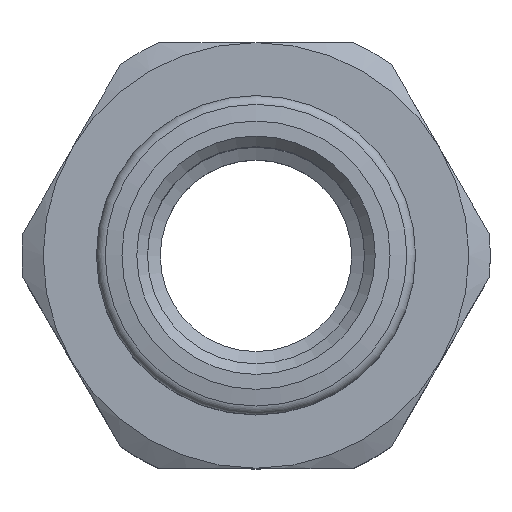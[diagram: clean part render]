
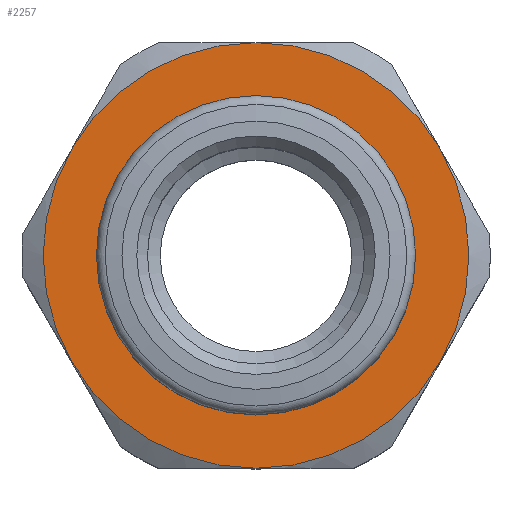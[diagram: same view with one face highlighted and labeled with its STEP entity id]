
A CAD part, top view. The second image highlights one B-rep face of the part: STEP entity #2257.
In plain terms, the highlighted planar face has unit normal (0, 0, 1) as drawn and (0, 1, 0) by its records, which use the part's own axes.
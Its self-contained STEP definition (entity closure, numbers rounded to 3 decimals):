
#1066=ORIENTED_EDGE('',*,*,#1349,.F.);
#1067=ORIENTED_EDGE('',*,*,#1352,.F.);
#1068=ORIENTED_EDGE('',*,*,#1353,.F.);
#1069=ORIENTED_EDGE('',*,*,#1354,.F.);
#1070=ORIENTED_EDGE('',*,*,#1355,.F.);
#1071=ORIENTED_EDGE('',*,*,#1356,.F.);
#1072=ORIENTED_EDGE('',*,*,#1357,.F.);
#1222=CIRCLE('',#2127,10.);
#1224=CIRCLE('',#2131,10.);
#1225=CIRCLE('',#2132,10.);
#1226=CIRCLE('',#2133,10.);
#1227=CIRCLE('',#2134,10.);
#1228=CIRCLE('',#2135,10.);
#1229=CIRCLE('',#2136,7.5);
#1278=VERTEX_POINT('',#1924);
#1282=VERTEX_POINT('',#1934);
#1284=VERTEX_POINT('',#1940);
#1285=VERTEX_POINT('',#1942);
#1286=VERTEX_POINT('',#1944);
#1287=VERTEX_POINT('',#1946);
#1288=VERTEX_POINT('',#1949);
#1349=EDGE_CURVE('',#1278,#1282,#1222,.T.);
#1352=EDGE_CURVE('',#1284,#1278,#1224,.T.);
#1353=EDGE_CURVE('',#1285,#1284,#1225,.T.);
#1354=EDGE_CURVE('',#1286,#1285,#1226,.T.);
#1355=EDGE_CURVE('',#1287,#1286,#1227,.T.);
#1356=EDGE_CURVE('',#1282,#1287,#1228,.T.);
#1357=EDGE_CURVE('',#1288,#1288,#1229,.T.);
#1445=EDGE_LOOP('',(#1066,#1067,#1068,#1069,#1070,#1071));
#1446=EDGE_LOOP('',(#1072));
#1531=FACE_BOUND('',#1445,.T.);
#1532=FACE_BOUND('',#1446,.T.);
#1664=DIRECTION('',(0.,-1.,0.));
#1665=DIRECTION('',(0.,0.,10.));
#1670=DIRECTION('',(0.,1.,0.));
#1671=DIRECTION('',(1.,0.,0.));
#1672=DIRECTION('',(0.,-1.,0.));
#1673=DIRECTION('',(0.,0.,10.));
#1674=DIRECTION('',(0.,-1.,0.));
#1675=DIRECTION('',(0.,0.,10.));
#1676=DIRECTION('',(0.,-1.,0.));
#1677=DIRECTION('',(0.,0.,10.));
#1678=DIRECTION('',(0.,-1.,0.));
#1679=DIRECTION('',(0.,0.,10.));
#1680=DIRECTION('',(0.,-1.,0.));
#1681=DIRECTION('',(0.,0.,10.));
#1682=DIRECTION('',(0.,1.,0.));
#1683=DIRECTION('',(0.,0.,-7.5));
#1924=CARTESIAN_POINT('',(27.383,42.297,5.));
#1934=CARTESIAN_POINT('',(18.723,42.297,10.));
#1935=CARTESIAN_POINT('',(18.723,42.297,0.));
#1939=CARTESIAN_POINT('',(28.723,42.297,0.));
#1940=CARTESIAN_POINT('',(27.383,42.297,-5.));
#1941=CARTESIAN_POINT('',(18.723,42.297,0.));
#1942=CARTESIAN_POINT('',(18.723,42.297,-10.));
#1943=CARTESIAN_POINT('',(18.723,42.297,0.));
#1944=CARTESIAN_POINT('',(10.063,42.297,-5.));
#1945=CARTESIAN_POINT('',(18.723,42.297,0.));
#1946=CARTESIAN_POINT('',(10.063,42.297,5.));
#1947=CARTESIAN_POINT('',(18.723,42.297,0.));
#1948=CARTESIAN_POINT('',(18.723,42.297,0.));
#1949=CARTESIAN_POINT('',(18.723,42.297,-7.5));
#1950=CARTESIAN_POINT('',(18.723,42.297,0.));
#2127=AXIS2_PLACEMENT_3D('',#1935,#1664,#1665);
#2130=AXIS2_PLACEMENT_3D('',#1939,#1670,#1671);
#2131=AXIS2_PLACEMENT_3D('',#1941,#1672,#1673);
#2132=AXIS2_PLACEMENT_3D('',#1943,#1674,#1675);
#2133=AXIS2_PLACEMENT_3D('',#1945,#1676,#1677);
#2134=AXIS2_PLACEMENT_3D('',#1947,#1678,#1679);
#2135=AXIS2_PLACEMENT_3D('',#1948,#1680,#1681);
#2136=AXIS2_PLACEMENT_3D('',#1950,#1682,#1683);
#2232=PLANE('',#2130);
#2257=ADVANCED_FACE('',(#1531,#1532),#2232,.T.);
